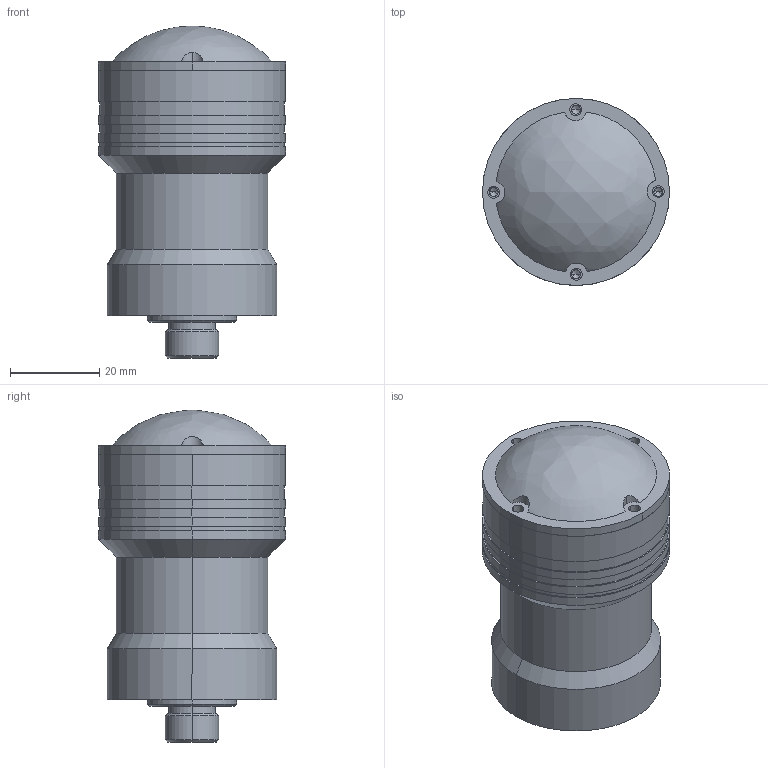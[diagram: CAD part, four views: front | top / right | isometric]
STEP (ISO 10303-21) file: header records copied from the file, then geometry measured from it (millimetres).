
FILE_DESCRIPTION (( 'STEP AP214' ), '1' );
FILE_NAME ('滅阨腑.STEP', '2022-05-18T01:36:10', ( '' ), ( '' ), 'SwSTEP 2.0', 'SolidWorks 2020', '' );
FILE_SCHEMA (( 'AUTOMOTIVE_DESIGN' ));
Length unit declared in the file: millimetre
Products named in the file (1): 滅阨腑
Bounding box: 42.01 x 42.01 x 74.55 mm (x, y, z)
Volume: 67164.2 mm3; surface area: 16222.2 mm2
Topology: 4 solids, 5 shells, 235 faces, 544 edges, 336 vertices
Faces by surface type: cylinder 97, plane 79, cone 40, torus 14, bspline 5
Entity records: 9658 total; most frequent: CARTESIAN_POINT 1602, DIRECTION 1230, ORIENTED_EDGE 1056, EDGE_CURVE 528, AXIS2_PLACEMENT_3D 486, VERTEX_POINT 336, EDGE_LOOP 280, VECTOR 258
